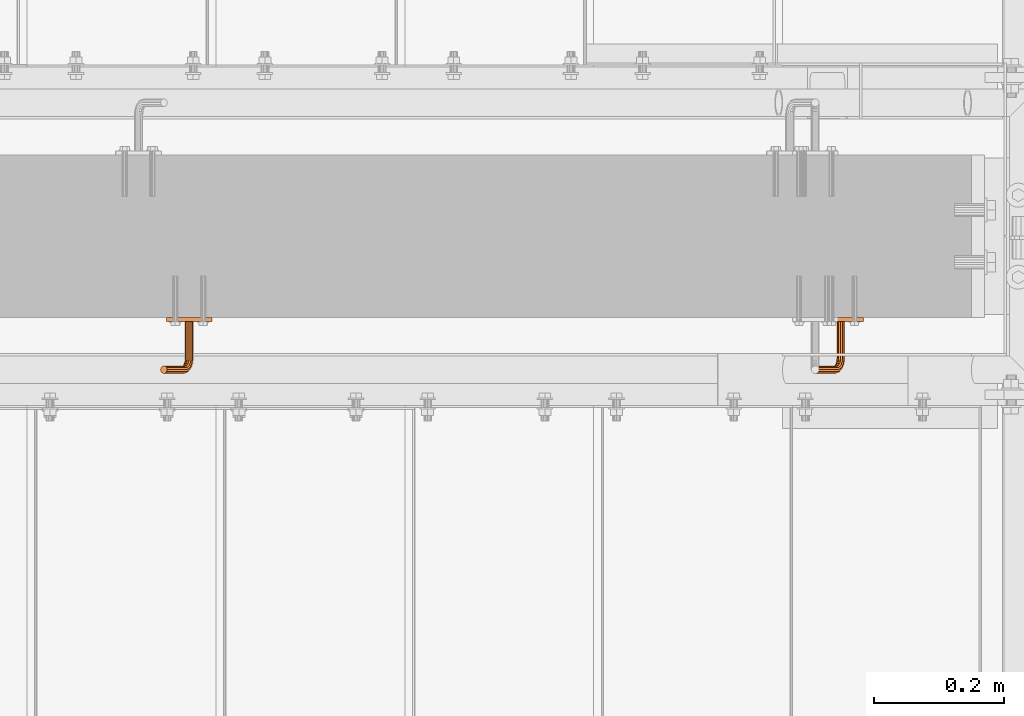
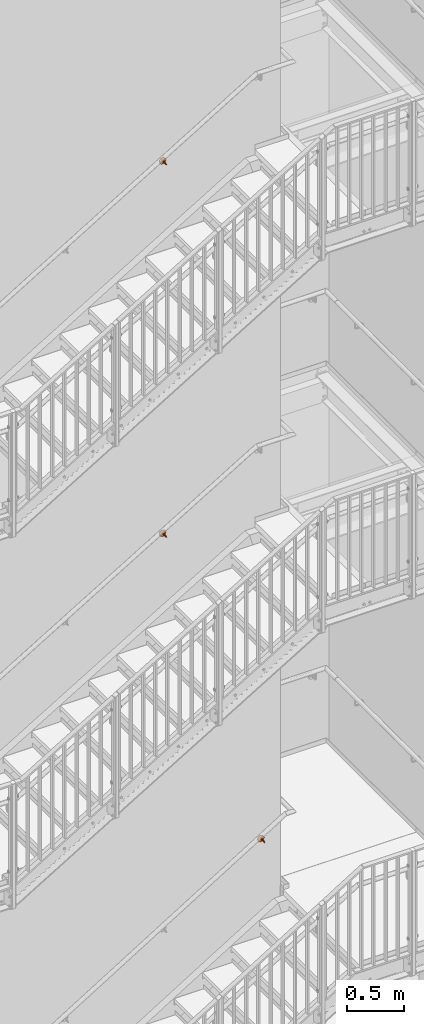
# One storey, part 384 of 410: 3 proxies.
"""IFC2X3 building model written with IfcOpenShell, lengths in millimetres."""

import ifcopenshell
import ifcopenshell.guid

model = None  # the IFC model being written
_history = None  # IfcOwnerHistory: only IFC2X3 demands one
_inside = {}  # id of a spatial element -> (the spatial element, [elements in it])
_under = {}  # id of a project, library or spatial element -> (it, [spatial elements below it])
_declared = {}  # id of a project -> (the project, [libraries it declares])
_typed = {}  # id of a type object -> (the type object, [elements of that type])
_made_of = {}  # id of a material, layer set ... -> (it, [elements and type objects made of it])


def new_model(schema):
    """Start an empty IFC model of exactly this schema.

    Asked for "IFC4X3", IfcOpenShell would pick the latest addendum, in which some entities
    have other attributes; the version numbers below select the first issue.
    IFC2X3 requires an IfcOwnerHistory on every rooted entity: one is made here for all.
    """
    global model, _history
    if schema == "IFC4X3":
        model = ifcopenshell.file(schema_version=(4, 3, 0, 0))
    else:
        model = ifcopenshell.file(schema=schema)
    _inside.clear()
    _under.clear()
    _declared.clear()
    _typed.clear()
    _made_of.clear()
    _history = None
    if model.schema == "IFC2X3":
        org = make("IfcOrganization", Name="unknown")
        user = make(
            "IfcPersonAndOrganization",
            ThePerson=make("IfcPerson", FamilyName="unknown"),
            TheOrganization=org,
        )
        app = make(
            "IfcApplication",
            ApplicationDeveloper=org,
            Version="unknown",
            ApplicationFullName="unknown",
            ApplicationIdentifier="unknown",
        )
        _history = make(
            "IfcOwnerHistory",
            OwningUser=user,
            OwningApplication=app,
            ChangeAction="ADDED",
            CreationDate=0,
        )
    return model


def make(cls, **values):
    """One entity of the class cls with the attributes given. An attribute that is None is left unset."""
    return model.create_entity(
        cls, **{name: value for name, value in values.items() if value is not None}
    )


def entity(cls, *values):
    """Any entity or typed value of the class cls, its attributes in the order of the schema. None: left unset."""
    e = model.create_entity(cls)
    for i, value in enumerate(values):
        if value is not None:
            e[i] = value
    return e


def rooted(cls, **values):
    """An entity with a GlobalId (a new one), such as an element, a storey or a relation."""
    return make(cls, GlobalId=ifcopenshell.guid.new(), OwnerHistory=_history, **values)


def si_unit(unit_type, name, prefix=None):
    """IfcSIUnit, for example si_unit("LENGTHUNIT", "METRE", prefix="MILLI")."""
    return make("IfcSIUnit", UnitType=unit_type, Prefix=prefix, Name=name)


def converted_unit(unit_type, name, factor, base, dimensions=None, offset=None):
    """IfcConversionBasedUnit, such as the inch: factor (a typed value) times the base unit."""
    return make(
        "IfcConversionBasedUnit"
        if offset is None
        else "IfcConversionBasedUnitWithOffset",
        ConversionOffset=offset,
        Dimensions=None
        if dimensions is None
        else entity("IfcDimensionalExponents", *dimensions),
        UnitType=unit_type,
        Name=name,
        ConversionFactor=make(
            "IfcMeasureWithUnit", ValueComponent=factor, UnitComponent=base
        ),
    )


def assignment(units):
    """IfcUnitAssignment: the units of a project."""
    return None if units is None else make("IfcUnitAssignment", Units=units)


def point(xyz):
    """IfcCartesianPoint."""
    return None if xyz is None else make("IfcCartesianPoint", Coordinates=xyz)


def direction(xyz):
    """IfcDirection."""
    return None if xyz is None else make("IfcDirection", DirectionRatios=xyz)


def frame(location, z_axis=None, x_axis=None):
    """IfcAxis2Placement3D, a coordinate frame: its origin and axes. An axis left out is left unset."""
    return make(
        "IfcAxis2Placement3D",
        Location=point(location),
        Axis=direction(z_axis),
        RefDirection=direction(x_axis),
    )


def origin_with_axes():
    """The frame at (0, 0, 0) with the z axis (0, 0, 1) and the x axis (1, 0, 0) written out."""
    return frame((0.0, 0.0, 0.0), z_axis=(0.0, 0.0, 1.0), x_axis=(1.0, 0.0, 0.0))


def place(relative_to, where):
    """IfcLocalPlacement: puts the frame where relative to a parent placement (None: the world)."""
    return make(
        "IfcLocalPlacement", PlacementRelTo=relative_to, RelativePlacement=where
    )


def context(
    kind, dimensions, precision=None, world=None, true_north=None, identifier=None
):
    """IfcGeometricRepresentationContext, for example the 3D "Model" context."""
    return make(
        "IfcGeometricRepresentationContext",
        ContextIdentifier=identifier,
        ContextType=kind,
        CoordinateSpaceDimension=dimensions,
        Precision=precision,
        WorldCoordinateSystem=world,
        TrueNorth=true_north,
    )


def project(units=None, contexts=None):
    """IfcProject with its units and contexts."""
    return rooted(
        "IfcProject",
        Name="project",
        RepresentationContexts=contexts,
        UnitsInContext=assignment(units),
    )


def spatial(cls, under=None, at=None, **own):
    """A site, building, storey or space (cls), placed at a placement, below another one or the project."""
    s = rooted(cls, ObjectPlacement=at, **own)
    if under is not None:
        _under.setdefault(under.id(), (under, []))[1].append(s)
    return s


def faces_of(points, faces, orient=None, outer=None):
    """IfcFace entities. A face is a list of loops; a loop is a list of indices into points, from 0.

    orient and outer hold one flag for each loop. By default every Orientation is true, the
    first loop of a face is its IfcFaceOuterBound and the others are IfcFaceBound.
    """
    made = []
    for i, loops in enumerate(faces):
        bounds = []
        for j, loop in enumerate(loops):
            is_outer = j == 0 if outer is None else outer[i][j]
            bounds.append(
                make(
                    "IfcFaceOuterBound" if is_outer else "IfcFaceBound",
                    Bound=make("IfcPolyLoop", Polygon=[points[k] for k in loop]),
                    Orientation=True if orient is None else orient[i][j],
                )
            )
        made.append(make("IfcFace", Bounds=bounds))
    return made


def faceted_brep(points, faces, orient=None, outer=None, voids=None):
    """IfcFacetedBrep: a solid bounded by flat faces; with voids (closed shells), ...WithVoids."""
    shared = [point(p) for p in points]
    hull = make("IfcClosedShell", CfsFaces=faces_of(shared, faces, orient, outer))
    if voids is None:
        return make("IfcFacetedBrep", Outer=hull)
    return make(
        "IfcFacetedBrepWithVoids",
        Outer=hull,
        Voids=[
            make(cls, CfsFaces=faces_of(shared, fs, o, b)) for cls, fs, o, b in voids
        ],
    )


def shape(context_of_items, identifier, shape_type, items):
    """IfcShapeRepresentation: the items that make up one representation, for example the "Body"."""
    return make(
        "IfcShapeRepresentation",
        ContextOfItems=context_of_items,
        RepresentationIdentifier=identifier,
        RepresentationType=shape_type,
        Items=items,
    )


def made_of(thing, what):
    """Note that an element or type object is made of a material, layer set ...; save() writes the relation."""
    if what is not None:
        _made_of.setdefault(what.id(), (what, []))[1].append(thing)
    return thing


def element(
    cls,
    number,
    at=None,
    inside=None,
    cuts=None,
    type_object=None,
    material=None,
    context=None,
    identifier="Body",
    shape_type=None,
    held_by="IfcProductDefinitionShape",
    body=None,
    shapes=None,
    **own,
):
    """One element of the class cls, such as IfcWall. Its Tag is "e" and its number.

    at: its placement. inside: the storey or other place that contains it. cuts: it is an
    opening in that element (IfcRelVoidsElement). A single representation is given by context,
    identifier, shape_type and body (its items); several are given by shapes. held_by: the class
    of the entity that holds the representations. save() writes the other relations.
    """
    e = rooted(cls, Tag="e%d" % number, ObjectPlacement=at, **own)
    if body is not None:
        shapes = [shape(context, identifier, shape_type, body)]
    if shapes is not None:
        e.Representation = make(held_by, Representations=shapes)
    if inside is not None:
        _inside.setdefault(inside.id(), (inside, []))[1].append(e)
    if cuts is not None:
        rooted(
            "IfcRelVoidsElement", RelatingBuildingElement=cuts, RelatedOpeningElement=e
        )
    if type_object is not None:
        _typed.setdefault(type_object.id(), (type_object, []))[1].append(e)
    return made_of(e, material)


def aggregate(whole, parts):
    """IfcRelAggregates: a whole, such as a stair, and the parts it consists of."""
    return rooted("IfcRelAggregates", RelatingObject=whole, RelatedObjects=parts)


def save(model, path):
    """Write the relations noted so far, then the file.

    IfcRelAggregates (storeys below a building ...), IfcRelContainedInSpatialStructure (elements
    in a storey), IfcRelDefinesByType, IfcRelAssociatesMaterial and IfcRelDeclares: one each for
    every whole, place, type object, material and project.
    """
    for whole, parts in _under.values():
        aggregate(whole, parts)
    for where, things in _inside.values():
        rooted(
            "IfcRelContainedInSpatialStructure",
            RelatedElements=things,
            RelatingStructure=where,
        )
    for kind, things in _typed.values():
        rooted("IfcRelDefinesByType", RelatedObjects=things, RelatingType=kind)
    for what, things in _made_of.values():
        rooted("IfcRelAssociatesMaterial", RelatedObjects=things, RelatingMaterial=what)
    for by, libraries in _declared.values():
        rooted("IfcRelDeclares", RelatingContext=by, RelatedDefinitions=libraries)
    model.write(path)


model = new_model("IFC2X3")

# Units and contexts
model_context = context("Model", 3, precision=1e-09, world=origin_with_axes())
ifc_project = project(units=[si_unit("LENGTHUNIT", "METRE", prefix="MILLI"), si_unit("AREAUNIT", "SQUARE_METRE"), si_unit("VOLUMEUNIT", "CUBIC_METRE"), converted_unit("PLANEANGLEUNIT", "DEGREE", entity("IfcPlaneAngleMeasure", 0.01745329), si_unit("PLANEANGLEUNIT", "RADIAN"), dimensions=[0, 0, 0, 0, 0, 0, 0])], contexts=[model_context])

# Site, building, storey
site_placement = place(None, origin_with_axes())
site = spatial("IfcSite", under=ifc_project, at=site_placement, Name="mKR Teilneubau & Sanierung BA1 - Ostfildern", CompositionType="ELEMENT")
building_placement = place(site_placement, origin_with_axes())
building = spatial("IfcBuilding", under=site, at=building_placement, Name="Struktur 1", CompositionType="ELEMENT")
storey_placement = place(building_placement, origin_with_axes())
storey = spatial("IfcBuildingStorey", under=building, at=storey_placement, Name="Default Storey", CompositionType="ELEMENT", Elevation=0.0)

# Proxies
proxy_1_placement = place(None, origin_with_axes())
element("IfcBuildingElementProxy", 1, at=proxy_1_placement, inside=storey, ObjectType="-", context=model_context, shape_type="Brep", body=[
    faceted_brep([(1548.832746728, 16855.0, -1570.467947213), (1548.832746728, 16849.0, -1570.467947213), (1549.463309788, 16849.0, -1572.575605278), (1549.463309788, 16855.0, -1572.575605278), (1575.278698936, 16849.0, -1522.23670842), (1563.868416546, 16849.0, -1523.834586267), (1553.595204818, 16849.0, -1529.050799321), (1545.572325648, 16849.0, -1537.320089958), (1540.669182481, 16849.0, -1547.746352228), (1539.41710696, 16849.0, -1559.199738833), (1541.951780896, 16849.0, -1570.439097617), (1547.998533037, 16849.0, -1580.246469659), (1556.902103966, 16849.0, -1587.559074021), (1567.697653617, 16849.0, -1591.584476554), (1579.215316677, 16849.0, -1591.886462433), (1590.206975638, 16849.0, -1588.432306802), (1599.481513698, 16849.0, -1581.596321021), (1606.033890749, 16849.0, -1572.119290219), (1609.154055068, 16849.0, -1561.028197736), (1608.503888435, 16849.0, -1549.524935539), (1604.153846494, 16849.0, -1538.856060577), (1596.575323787, 16849.0, -1530.177710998), (1586.589570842, 16849.0, -1524.430320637), (1549.340492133, 16849.0, -1568.327380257), (1550.850496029, 16849.0, -1566.727467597), (1552.958154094, 16849.0, -1566.096904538), (1555.09872105, 16849.0, -1566.604649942), (1556.69863371, 16849.0, -1568.114653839), (1557.329196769, 16849.0, -1570.222311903), (1556.821451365, 16849.0, -1572.362878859), (1555.311447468, 16849.0, -1573.962791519), (1553.203789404, 16849.0, -1574.593354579), (1551.063222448, 16849.0, -1574.085609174), (1591.393475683, 16849.0, -1544.227056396), (1591.901221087, 16849.0, -1542.08648944), (1593.411224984, 16849.0, -1540.48657678), (1595.518883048, 16849.0, -1539.856013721), (1597.659450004, 16849.0, -1540.363759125), (1599.259362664, 16849.0, -1541.873763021), (1599.889925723, 16849.0, -1543.981421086), (1599.382180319, 16849.0, -1546.121988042), (1597.872176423, 16849.0, -1547.721900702), (1595.764518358, 16849.0, -1548.352463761), (1593.623951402, 16849.0, -1547.844718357), (1592.024038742, 16849.0, -1546.33471446), (1549.340492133, 16855.0, -1568.327380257), (1606.033890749, 16855.0, -1572.119290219), (1599.481513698, 16855.0, -1581.596321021), (1590.206975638, 16855.0, -1588.432306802), (1579.215316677, 16855.0, -1591.886462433), (1567.697653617, 16855.0, -1591.584476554), (1556.902103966, 16855.0, -1587.559074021), (1547.998533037, 16855.0, -1580.246469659), (1541.951780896, 16855.0, -1570.439097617), (1539.41710696, 16855.0, -1559.199738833), (1540.669182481, 16855.0, -1547.746352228), (1545.572325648, 16855.0, -1537.320089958), (1553.595204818, 16855.0, -1529.050799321), (1563.868416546, 16855.0, -1523.834586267), (1575.278698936, 16855.0, -1522.23670842), (1586.589570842, 16855.0, -1524.430320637), (1596.575323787, 16855.0, -1530.177710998), (1604.153846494, 16855.0, -1538.856060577), (1608.503888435, 16855.0, -1549.524935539), (1609.154055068, 16855.0, -1561.028197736), (1593.623951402, 16855.0, -1547.844718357), (1595.764518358, 16855.0, -1548.352463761), (1597.872176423, 16855.0, -1547.721900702), (1599.382180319, 16855.0, -1546.121988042), (1599.889925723, 16855.0, -1543.981421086), (1599.259362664, 16855.0, -1541.873763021), (1597.659450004, 16855.0, -1540.363759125), (1595.518883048, 16855.0, -1539.856013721), (1593.411224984, 16855.0, -1540.48657678), (1591.901221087, 16855.0, -1542.08648944), (1591.393475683, 16855.0, -1544.227056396), (1592.024038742, 16855.0, -1546.33471446), (1551.063222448, 16855.0, -1574.085609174), (1553.203789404, 16855.0, -1574.593354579), (1555.311447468, 16855.0, -1573.962791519), (1556.821451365, 16855.0, -1572.362878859), (1557.329196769, 16855.0, -1570.222311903), (1556.69863371, 16855.0, -1568.114653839), (1555.09872105, 16855.0, -1566.604649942), (1552.958154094, 16855.0, -1566.096904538), (1550.850496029, 16855.0, -1566.727467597)], [[[0, 1, 2, 3]], [[4, 5, 6, 7, 8, 9, 10, 11, 12, 13, 14, 15, 16, 17, 18, 19, 20, 21, 22], [2, 1, 23, 24, 25, 26, 27, 28, 29, 30, 31, 32], [33, 34, 35, 36, 37, 38, 39, 40, 41, 42, 43, 44]], [[1, 0, 45, 23]], [[46, 47, 48, 49, 50, 51, 52, 53, 54, 55, 56, 57, 58, 59, 60, 61, 62, 63, 64], [65, 66, 67, 68, 69, 70, 71, 72, 73, 74, 75, 76], [0, 3, 77, 78, 79, 80, 81, 82, 83, 84, 85, 45]], [[3, 2, 32, 77]], [[10, 53, 52, 11]], [[77, 32, 31, 78]], [[23, 45, 85, 24]], [[53, 10, 9, 54]], [[78, 31, 30, 79]], [[11, 52, 51, 12]], [[24, 85, 84, 25]], [[8, 55, 54, 9]], [[79, 30, 29, 80]], [[55, 8, 7, 56]], [[50, 13, 12, 51]], [[25, 84, 83, 26]], [[13, 50, 49, 14]], [[80, 29, 28, 81]], [[26, 83, 82, 27]], [[56, 7, 6, 57]], [[81, 28, 27, 82]], [[14, 49, 48, 15]], [[57, 6, 5, 58]], [[44, 76, 75, 33]], [[15, 48, 47, 16]], [[76, 44, 43, 65]], [[33, 75, 74, 34]], [[58, 5, 4, 59]], [[16, 47, 46, 17]], [[65, 43, 42, 66]], [[34, 74, 73, 35]], [[59, 4, 22, 60]], [[17, 46, 64, 18]], [[66, 42, 41, 67]], [[35, 73, 72, 36]], [[60, 22, 21, 61]], [[18, 64, 63, 19]], [[67, 41, 40, 68]], [[20, 62, 61, 21]], [[36, 72, 71, 37]], [[62, 20, 19, 63]], [[68, 40, 39, 69]], [[37, 71, 70, 38]], [[69, 39, 38, 70]]]),
    faceted_brep([(1579.4686237, 16793.0, -1554.075777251), (1579.4686237, 16849.0, -1554.075777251), (1577.209923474, 16849.0, -1551.944007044), (1577.209923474, 16793.0, -1551.944007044), (1569.337656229, 16772.0, -1539.175788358), (1539.423040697, 16772.0, -1490.65655735), (1537.553643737, 16769.803847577, -1491.809137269), (1567.468259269, 16769.803847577, -1540.328368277), (1570.021903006, 16775.0, -1538.753914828), (1540.107287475, 16775.0, -1490.23468382), (1572.126953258, 16771.569549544, -1547.884415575), (1573.555276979, 16773.598529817, -1546.016448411), (1574.534725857, 16849.0, -1563.222178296), (1571.512748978, 16849.0, -1562.505361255), (1569.254048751, 16849.0, -1560.373591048), (1568.36384208, 16849.0, -1557.39807378), (1569.080659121, 16849.0, -1554.376096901), (1571.212429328, 16849.0, -1552.117396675), (1574.187946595, 16849.0, -1551.227190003), (1580.358830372, 16849.0, -1557.051294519), (1579.642013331, 16849.0, -1560.073271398), (1577.510243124, 16849.0, -1562.331971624), (1580.358830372, 16793.0, -1557.051294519), (1576.610682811, 16787.259748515, -1550.972084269), (1578.749534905, 16786.111698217, -1552.909469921), (1532.446356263, 16780.196152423, -1494.958044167), (1530.576959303, 16778.0, -1496.110624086), (1529.892712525, 16775.0, -1496.532497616), (1530.576959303, 16772.0, -1496.110624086), (1532.446356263, 16769.803847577, -1494.958044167), (1535.0, 16769.0, -1493.383590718), (1539.423040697, 16778.0, -1490.65655735), (1537.553643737, 16780.196152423, -1491.809137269), (1535.0, 16781.0, -1493.383590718), (1573.637006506, 16776.370168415, -1544.61733773), (1577.130803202, 16778.150757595, -1551.815679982), (1576.701743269, 16780.272077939, -1549.588107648), (1574.187946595, 16793.0, -1551.227190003), (1579.519893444, 16784.96364792, -1555.690602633), (1564.914615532, 16769.0, -1541.902821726), (1569.337656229, 16778.0, -1539.175788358), (1569.734753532, 16770.82689122, -1549.720718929), (1576.076403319, 16776.597843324, -1554.290123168), (1574.904189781, 16782.393398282, -1548.204282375), (1573.676440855, 16788.100179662, -1550.397566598), (1579.642013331, 16793.0, -1560.073271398), (1572.350242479, 16779.141807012, -1544.06197411), (1571.212429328, 16793.0, -1552.117396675), (1578.715341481, 16784.123216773, -1558.570280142), (1562.360971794, 16769.803847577, -1543.477275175), (1567.468259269, 16780.196152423, -1540.328368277), (1567.019665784, 16771.569549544, -1551.033322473), (1573.821069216, 16776.029437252, -1556.348412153), (1572.219795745, 16783.946312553, -1548.034999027), (1570.733036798, 16788.407798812, -1551.339858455), (1577.510243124, 16793.0, -1562.331971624), (1570.039772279, 16781.170787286, -1544.499166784), (1560.491574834, 16772.0, -1544.629855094), (1569.080659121, 16793.0, -1554.376096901), (1576.551458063, 16783.815597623, -1560.776895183), (1564.914615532, 16781.0, -1541.902821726), (1564.709195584, 16773.598529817, -1551.470515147), (1570.969115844, 16776.597843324, -1557.439030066), (1569.367842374, 16784.514718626, -1549.125616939), (1568.56915338, 16788.100179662, -1553.546473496), (1574.534725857, 16793.0, -1563.222178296), (1567.324684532, 16781.91344561, -1545.811770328), (1559.807328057, 16775.0, -1545.051728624), (1568.36384208, 16793.0, -1557.39807378), (1573.608054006, 16784.123216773, -1561.71918704), (1562.360971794, 16780.196152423, -1543.477275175), (1560.491574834, 16778.0, -1544.629855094), (1563.422431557, 16776.370168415, -1550.915151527), (1568.284721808, 16778.150757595, -1557.269746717), (1567.11250827, 16783.946312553, -1551.183905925), (1567.764601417, 16787.259748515, -1556.426151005), (1569.254048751, 16793.0, -1560.373591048), (1571.512748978, 16793.0, -1562.505361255), (1564.932484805, 16781.170787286, -1547.648073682), (1570.67381205, 16784.96364792, -1561.144669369), (1563.504161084, 16779.141807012, -1549.516040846), (1566.48716832, 16780.272077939, -1555.885921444), (1568.534959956, 16786.111698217, -1559.207283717), (1566.058108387, 16782.393398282, -1553.658349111)], [[[0, 1, 2, 3]], [[4, 5, 6, 7]], [[5, 4, 8, 9]], [[4, 7, 10, 11]], [[12, 13, 14, 15, 16, 17, 18, 2, 1, 19, 20, 21]], [[1, 0, 22, 19]], [[0, 3, 23, 24]], [[25, 26, 27, 28, 29, 30, 6, 5, 9, 31, 32, 33]], [[11, 34, 8, 4]], [[35, 36, 34, 11]], [[3, 2, 18, 37]], [[24, 38, 22, 0]], [[36, 35, 38, 24]], [[7, 6, 30, 39]], [[9, 8, 40, 31]], [[7, 39, 41, 10]], [[11, 10, 42, 35]], [[24, 23, 43, 36]], [[3, 37, 44, 23]], [[19, 22, 45, 20]], [[36, 43, 46, 34]], [[34, 46, 40, 8]], [[37, 18, 17, 47]], [[38, 48, 45, 22]], [[35, 42, 48, 38]], [[39, 30, 29, 49]], [[31, 40, 50, 32]], [[39, 49, 51, 41]], [[10, 41, 52, 42]], [[23, 44, 53, 43]], [[37, 47, 54, 44]], [[20, 45, 55, 21]], [[43, 53, 56, 46]], [[46, 56, 50, 40]], [[49, 29, 28, 57]], [[47, 17, 16, 58]], [[48, 59, 55, 45]], [[42, 52, 59, 48]], [[32, 50, 60, 33]], [[49, 57, 61, 51]], [[41, 51, 62, 52]], [[44, 54, 63, 53]], [[47, 58, 64, 54]], [[21, 55, 65, 12]], [[56, 66, 60, 50]], [[53, 63, 66, 56]], [[57, 28, 27, 67]], [[58, 16, 15, 68]], [[59, 69, 65, 55]], [[52, 62, 69, 59]], [[33, 60, 70, 25]], [[26, 71, 67, 27]], [[25, 70, 71, 26]], [[57, 67, 72, 61]], [[51, 61, 73, 62]], [[54, 64, 74, 63]], [[58, 68, 75, 64]], [[14, 76, 68, 15]], [[13, 77, 76, 14]], [[12, 65, 77, 13]], [[66, 78, 70, 60]], [[63, 74, 78, 66]], [[69, 79, 77, 65]], [[62, 73, 79, 69]], [[67, 71, 80, 72]], [[71, 70, 78, 80]], [[61, 72, 81, 73]], [[68, 76, 82, 75]], [[64, 75, 83, 74]], [[76, 77, 79, 82]], [[74, 83, 80, 78]], [[73, 81, 82, 79]], [[72, 80, 83, 81]], [[75, 82, 81, 83]]]),
])
proxy_2_placement = place(None, origin_with_axes())
element("IfcBuildingElementProxy", 2, at=proxy_2_placement, inside=storey, ObjectType="-", context=model_context, shape_type="Brep", body=[
    faceted_brep([(547.883426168, 16855.0, 2066.639713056), (547.883426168, 16849.0, 2066.639713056), (548.488013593, 16849.0, 2064.524457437), (548.488013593, 16855.0, 2064.524457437), (574.920706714, 16849.0, 2114.541970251), (563.491631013, 16849.0, 2113.084579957), (553.155028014, 16849.0, 2107.995140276), (545.03102904, 16849.0, 2099.825170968), (539.999995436, 16849.0, 2089.460014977), (538.607117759, 16849.0, 2078.022897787), (541.003335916, 16849.0, 2066.753208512), (546.928982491, 16849.0, 2056.87219285), (555.74192173, 16849.0, 2049.450612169), (566.48713492, 16849.0, 2045.292709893), (578.000211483, 16849.0, 2044.849059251), (589.033530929, 16849.0, 2048.167736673), (598.391461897, 16849.0, 2054.889111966), (605.059927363, 16849.0, 2064.284819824), (608.316295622, 16849.0, 2075.336689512), (607.807688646, 16849.0, 2086.847079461), (603.589221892, 16849.0, 2097.568660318), (596.118031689, 16849.0, 2106.339582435), (586.203737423, 16849.0, 2112.209380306), (590.76374391, 16849.0, 2092.355046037), (591.297783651, 16849.0, 2094.489204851), (592.82735504, 16849.0, 2096.07042073), (594.942610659, 16849.0, 2096.675008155), (597.076769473, 16849.0, 2096.140968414), (598.657985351, 16849.0, 2094.611397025), (599.262572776, 16849.0, 2092.496141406), (598.728533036, 16849.0, 2090.361982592), (597.198961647, 16849.0, 2088.780766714), (595.083706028, 16849.0, 2088.176179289), (592.949547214, 16849.0, 2088.710219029), (591.368331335, 16849.0, 2090.239790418), (548.417465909, 16849.0, 2068.77387187), (549.947037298, 16849.0, 2070.355087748), (552.062292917, 16849.0, 2070.959675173), (554.196451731, 16849.0, 2070.425635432), (555.77766761, 16849.0, 2068.896064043), (556.382255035, 16849.0, 2066.780808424), (555.848215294, 16849.0, 2064.64664961), (554.318643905, 16849.0, 2063.065433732), (552.203388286, 16849.0, 2062.460846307), (550.069229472, 16849.0, 2062.994886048), (548.417465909, 16855.0, 2068.77387187), (605.059927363, 16855.0, 2064.284819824), (598.391461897, 16855.0, 2054.889111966), (589.033530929, 16855.0, 2048.167736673), (578.000211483, 16855.0, 2044.849059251), (566.48713492, 16855.0, 2045.292709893), (555.74192173, 16855.0, 2049.450612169), (546.928982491, 16855.0, 2056.87219285), (541.003335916, 16855.0, 2066.753208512), (538.607117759, 16855.0, 2078.022897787), (539.999995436, 16855.0, 2089.460014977), (545.03102904, 16855.0, 2099.825170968), (553.155028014, 16855.0, 2107.995140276), (563.491631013, 16855.0, 2113.084579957), (574.920706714, 16855.0, 2114.541970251), (586.203737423, 16855.0, 2112.209380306), (596.118031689, 16855.0, 2106.339582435), (603.589221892, 16855.0, 2097.568660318), (607.807688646, 16855.0, 2086.847079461), (608.316295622, 16855.0, 2075.336689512), (592.949547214, 16855.0, 2088.710219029), (595.083706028, 16855.0, 2088.176179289), (597.198961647, 16855.0, 2088.780766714), (598.728533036, 16855.0, 2090.361982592), (599.262572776, 16855.0, 2092.496141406), (598.657985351, 16855.0, 2094.611397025), (597.076769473, 16855.0, 2096.140968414), (594.942610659, 16855.0, 2096.675008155), (592.82735504, 16855.0, 2096.07042073), (591.297783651, 16855.0, 2094.489204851), (590.76374391, 16855.0, 2092.355046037), (591.368331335, 16855.0, 2090.239790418), (550.069229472, 16855.0, 2062.994886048), (552.203388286, 16855.0, 2062.460846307), (554.318643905, 16855.0, 2063.065433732), (555.848215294, 16855.0, 2064.64664961), (556.382255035, 16855.0, 2066.780808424), (555.77766761, 16855.0, 2068.896064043), (554.196451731, 16855.0, 2070.425635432), (552.062292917, 16855.0, 2070.959675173), (549.947037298, 16855.0, 2070.355087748)], [[[0, 1, 2, 3]], [[4, 5, 6, 7, 8, 9, 10, 11, 12, 13, 14, 15, 16, 17, 18, 19, 20, 21, 22], [23, 24, 25, 26, 27, 28, 29, 30, 31, 32, 33, 34], [2, 1, 35, 36, 37, 38, 39, 40, 41, 42, 43, 44]], [[1, 0, 45, 35]], [[46, 47, 48, 49, 50, 51, 52, 53, 54, 55, 56, 57, 58, 59, 60, 61, 62, 63, 64], [65, 66, 67, 68, 69, 70, 71, 72, 73, 74, 75, 76], [0, 3, 77, 78, 79, 80, 81, 82, 83, 84, 85, 45]], [[3, 2, 44, 77]], [[10, 53, 52, 11]], [[77, 44, 43, 78]], [[35, 45, 85, 36]], [[53, 10, 9, 54]], [[78, 43, 42, 79]], [[11, 52, 51, 12]], [[36, 85, 84, 37]], [[8, 55, 54, 9]], [[79, 42, 41, 80]], [[55, 8, 7, 56]], [[50, 13, 12, 51]], [[37, 84, 83, 38]], [[13, 50, 49, 14]], [[80, 41, 40, 81]], [[38, 83, 82, 39]], [[56, 7, 6, 57]], [[81, 40, 39, 82]], [[14, 49, 48, 15]], [[57, 6, 5, 58]], [[34, 76, 75, 23]], [[15, 48, 47, 16]], [[76, 34, 33, 65]], [[23, 75, 74, 24]], [[58, 5, 4, 59]], [[16, 47, 46, 17]], [[65, 33, 32, 66]], [[24, 74, 73, 25]], [[59, 4, 22, 60]], [[17, 46, 64, 18]], [[66, 32, 31, 67]], [[25, 73, 72, 26]], [[60, 22, 21, 61]], [[18, 64, 63, 19]], [[67, 31, 30, 68]], [[20, 62, 61, 21]], [[26, 72, 71, 27]], [[62, 20, 19, 63]], [[68, 30, 29, 69]], [[27, 71, 70, 28]], [[69, 29, 28, 70]]]),
    faceted_brep([(578.718637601, 16793.0, 2082.653767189), (578.718637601, 16849.0, 2082.653767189), (576.486332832, 16849.0, 2084.813162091), (576.486332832, 16793.0, 2084.813162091), (568.771732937, 16772.0, 2097.677257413), (539.456253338, 16772.0, 2146.560819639), (537.572819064, 16769.803847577, 2145.431323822), (566.888298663, 16769.803847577, 2096.547761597), (569.461117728, 16775.0, 2098.090681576), (540.145638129, 16775.0, 2146.974243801), (571.453687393, 16771.569549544, 2088.934975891), (572.904882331, 16773.598529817, 2090.7852308), (573.672596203, 16849.0, 2073.568753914), (570.659666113, 16849.0, 2074.322692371), (568.427361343, 16849.0, 2076.482087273), (567.573826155, 16849.0, 2079.4683305), (568.327764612, 16849.0, 2082.48126059), (570.487159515, 16849.0, 2084.71356536), (573.473402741, 16849.0, 2085.567100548), (579.57217279, 16849.0, 2079.667523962), (578.818234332, 16849.0, 2076.654593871), (576.65883943, 16849.0, 2074.422289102), (579.57217279, 16793.0, 2079.667523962), (575.899093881, 16787.259748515, 2085.792383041), (578.013950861, 16786.111698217, 2083.828832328), (532.427180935, 16780.196152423, 2142.345483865), (530.543746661, 16778.0, 2141.215988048), (529.854361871, 16775.0, 2140.802563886), (530.543746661, 16772.0, 2141.215988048), (532.427180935, 16769.803847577, 2142.345483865), (535.0, 16769.0, 2143.888403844), (539.456253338, 16778.0, 2146.560819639), (537.572819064, 16780.196152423, 2145.431323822), (535.0, 16781.0, 2143.888403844), (573.003817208, 16776.370168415, 2092.183230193), (576.408797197, 16778.150757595, 2084.942452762), (576.007172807, 16780.272077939, 2087.175134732), (573.473402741, 16793.0, 2085.567100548), (578.750038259, 16784.96364792, 2081.038433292), (564.315479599, 16769.0, 2095.004841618), (568.771732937, 16778.0, 2097.677257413), (569.039078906, 16770.82689122, 2087.128239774), (575.324037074, 16776.597843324, 2082.481167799), (574.226778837, 16782.393398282, 2088.580968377), (572.972141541, 16788.100179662, 2086.402953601), (578.818234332, 16793.0, 2076.654593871), (571.723982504, 16779.141807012, 2092.754381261), (570.487159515, 16793.0, 2084.71356536), (577.910122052, 16784.123216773, 2078.168871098), (561.742660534, 16769.803847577, 2093.461921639), (566.888298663, 16780.196152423, 2096.547761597), (566.308049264, 16771.569549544, 2085.849135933), (573.043553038, 16776.029437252, 2080.45077916), (571.544670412, 16783.946312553, 2088.783261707), (570.017368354, 16788.407798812, 2085.49694212), (576.65883943, 16793.0, 2074.422289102), (569.408308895, 16781.170787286, 2092.345644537), (559.859226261, 16772.0, 2092.332425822), (568.327764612, 16793.0, 2082.48126059), (575.719257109, 16783.815597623, 2075.989042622), (564.315479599, 16781.0, 2095.004841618), (563.992375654, 16773.598529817, 2085.440399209), (570.178398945, 16776.597843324, 2079.395327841), (568.679516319, 16784.514718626, 2087.727810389), (567.826503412, 16788.100179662, 2083.317113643), (573.672596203, 16793.0, 2073.568753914), (566.677279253, 16781.91344561, 2091.066540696), (559.16984147, 16775.0, 2091.91900166), (567.573826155, 16793.0, 2079.4683305), (572.764483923, 16784.123216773, 2075.083031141), (561.742660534, 16780.196152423, 2093.461921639), (559.859226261, 16778.0, 2092.332425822), (562.71254095, 16776.370168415, 2086.011550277), (567.49629052, 16778.150757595, 2079.597621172), (566.399032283, 16783.946312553, 2085.69742175), (566.986587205, 16787.259748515, 2080.44755145), (568.427361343, 16793.0, 2076.482087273), (570.659666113, 16793.0, 2074.322692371), (564.262670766, 16781.170787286, 2089.259804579), (569.837531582, 16784.96364792, 2075.693601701), (562.811475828, 16779.141807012, 2087.40954967), (565.715896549, 16780.272077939, 2081.003454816), (567.722674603, 16786.111698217, 2077.657152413), (565.31427216, 16782.393398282, 2083.236136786)], [[[0, 1, 2, 3]], [[4, 5, 6, 7]], [[5, 4, 8, 9]], [[4, 7, 10, 11]], [[12, 13, 14, 15, 16, 17, 18, 2, 1, 19, 20, 21]], [[1, 0, 22, 19]], [[0, 3, 23, 24]], [[25, 26, 27, 28, 29, 30, 6, 5, 9, 31, 32, 33]], [[11, 34, 8, 4]], [[35, 36, 34, 11]], [[3, 2, 18, 37]], [[24, 38, 22, 0]], [[36, 35, 38, 24]], [[7, 6, 30, 39]], [[9, 8, 40, 31]], [[7, 39, 41, 10]], [[11, 10, 42, 35]], [[24, 23, 43, 36]], [[3, 37, 44, 23]], [[19, 22, 45, 20]], [[36, 43, 46, 34]], [[34, 46, 40, 8]], [[37, 18, 17, 47]], [[38, 48, 45, 22]], [[35, 42, 48, 38]], [[39, 30, 29, 49]], [[31, 40, 50, 32]], [[39, 49, 51, 41]], [[10, 41, 52, 42]], [[23, 44, 53, 43]], [[37, 47, 54, 44]], [[20, 45, 55, 21]], [[43, 53, 56, 46]], [[46, 56, 50, 40]], [[49, 29, 28, 57]], [[47, 17, 16, 58]], [[48, 59, 55, 45]], [[42, 52, 59, 48]], [[32, 50, 60, 33]], [[49, 57, 61, 51]], [[41, 51, 62, 52]], [[44, 54, 63, 53]], [[47, 58, 64, 54]], [[21, 55, 65, 12]], [[56, 66, 60, 50]], [[53, 63, 66, 56]], [[57, 28, 27, 67]], [[58, 16, 15, 68]], [[59, 69, 65, 55]], [[52, 62, 69, 59]], [[33, 60, 70, 25]], [[26, 71, 67, 27]], [[25, 70, 71, 26]], [[57, 67, 72, 61]], [[51, 61, 73, 62]], [[54, 64, 74, 63]], [[58, 68, 75, 64]], [[14, 76, 68, 15]], [[13, 77, 76, 14]], [[12, 65, 77, 13]], [[66, 78, 70, 60]], [[63, 74, 78, 66]], [[69, 79, 77, 65]], [[62, 73, 79, 69]], [[67, 71, 80, 72]], [[71, 70, 78, 80]], [[61, 72, 81, 73]], [[68, 76, 82, 75]], [[64, 75, 83, 74]], [[76, 77, 79, 82]], [[74, 83, 80, 78]], [[73, 81, 82, 79]], [[72, 80, 83, 81]], [[75, 82, 81, 83]]]),
])
proxy_3_placement = place(None, origin_with_axes())
element("IfcBuildingElementProxy", 3, at=proxy_3_placement, inside=storey, ObjectType="-", context=model_context, shape_type="Brep", body=[
    faceted_brep([(548.095976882, 16855.0, 6074.989343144), (548.095976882, 16849.0, 6074.989343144), (548.706383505, 16849.0, 6072.875759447), (548.706383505, 16855.0, 6072.875759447), (575.001321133, 16849.0, 6122.96582941), (563.576299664, 16849.0, 6121.476990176), (553.253742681, 16849.0, 6116.359121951), (545.152259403, 16849.0, 6108.16682517), (540.149771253, 16849.0, 6097.787862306), (538.788375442, 16849.0, 6086.346955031), (541.21560033, 16849.0, 6075.083903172), (547.168418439, 16849.0, 6065.219233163), (556.001749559, 16849.0, 6057.821935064), (566.7583652, 16849.0, 6053.693620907), (578.272619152, 16849.0, 6053.281657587), (589.296763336, 16849.0, 6056.630687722), (598.636160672, 16849.0, 6063.377791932), (605.278742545, 16849.0, 6072.791816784), (608.504682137, 16849.0, 6083.85260661), (607.964398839, 16849.0, 6095.361553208), (603.716440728, 16849.0, 6106.071483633), (596.221139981, 16849.0, 6114.821810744), (586.290728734, 16849.0, 6120.664300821), (590.905359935, 16849.0, 6100.822591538), (591.433524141, 16849.0, 6102.958212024), (592.958738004, 16849.0, 6104.543631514), (595.072321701, 16849.0, 6105.154038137), (597.207942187, 16849.0, 6104.625873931), (598.793361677, 16849.0, 6103.100660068), (599.4037683, 16849.0, 6100.987076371), (598.875604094, 16849.0, 6098.851455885), (597.350390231, 16849.0, 6097.266036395), (595.236806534, 16849.0, 6096.655629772), (593.101186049, 16849.0, 6097.183793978), (591.515766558, 16849.0, 6098.709007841), (548.624141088, 16849.0, 6077.124963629), (550.149354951, 16849.0, 6078.71038312), (552.262938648, 16849.0, 6079.320789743), (554.398559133, 16849.0, 6078.792625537), (555.983978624, 16849.0, 6077.267411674), (556.594385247, 16849.0, 6075.153827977), (556.066221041, 16849.0, 6073.018207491), (554.541007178, 16849.0, 6071.432788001), (552.427423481, 16849.0, 6070.822381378), (550.291802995, 16849.0, 6071.350545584), (548.624141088, 16855.0, 6077.124963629), (605.278742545, 16855.0, 6072.791816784), (598.636160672, 16855.0, 6063.377791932), (589.296763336, 16855.0, 6056.630687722), (578.272619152, 16855.0, 6053.281657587), (566.7583652, 16855.0, 6053.693620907), (556.001749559, 16855.0, 6057.821935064), (547.168418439, 16855.0, 6065.219233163), (541.21560033, 16855.0, 6075.083903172), (538.788375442, 16855.0, 6086.346955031), (540.149771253, 16855.0, 6097.787862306), (545.152259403, 16855.0, 6108.16682517), (553.253742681, 16855.0, 6116.359121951), (563.576299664, 16855.0, 6121.476990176), (575.001321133, 16855.0, 6122.96582941), (586.290728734, 16855.0, 6120.664300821), (596.221139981, 16855.0, 6114.821810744), (603.716440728, 16855.0, 6106.071483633), (607.964398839, 16855.0, 6095.361553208), (608.504682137, 16855.0, 6083.85260661), (550.291802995, 16855.0, 6071.350545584), (552.427423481, 16855.0, 6070.822381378), (554.541007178, 16855.0, 6071.432788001), (556.066221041, 16855.0, 6073.018207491), (556.594385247, 16855.0, 6075.153827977), (555.983978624, 16855.0, 6077.267411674), (554.398559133, 16855.0, 6078.792625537), (552.262938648, 16855.0, 6079.320789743), (550.149354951, 16855.0, 6078.71038312), (593.101186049, 16855.0, 6097.183793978), (595.236806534, 16855.0, 6096.655629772), (597.350390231, 16855.0, 6097.266036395), (598.875604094, 16855.0, 6098.851455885), (599.4037683, 16855.0, 6100.987076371), (598.793361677, 16855.0, 6103.100660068), (597.207942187, 16855.0, 6104.625873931), (595.072321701, 16855.0, 6105.154038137), (592.958738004, 16855.0, 6104.543631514), (591.433524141, 16855.0, 6102.958212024), (590.905359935, 16855.0, 6100.822591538), (591.515766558, 16855.0, 6098.709007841)], [[[0, 1, 2, 3]], [[4, 5, 6, 7, 8, 9, 10, 11, 12, 13, 14, 15, 16, 17, 18, 19, 20, 21, 22], [23, 24, 25, 26, 27, 28, 29, 30, 31, 32, 33, 34], [2, 1, 35, 36, 37, 38, 39, 40, 41, 42, 43, 44]], [[1, 0, 45, 35]], [[46, 47, 48, 49, 50, 51, 52, 53, 54, 55, 56, 57, 58, 59, 60, 61, 62, 63, 64], [0, 3, 65, 66, 67, 68, 69, 70, 71, 72, 73, 45], [74, 75, 76, 77, 78, 79, 80, 81, 82, 83, 84, 85]], [[3, 2, 44, 65]], [[10, 53, 52, 11]], [[65, 44, 43, 66]], [[35, 45, 73, 36]], [[53, 10, 9, 54]], [[66, 43, 42, 67]], [[11, 52, 51, 12]], [[36, 73, 72, 37]], [[8, 55, 54, 9]], [[67, 42, 41, 68]], [[55, 8, 7, 56]], [[50, 13, 12, 51]], [[37, 72, 71, 38]], [[13, 50, 49, 14]], [[68, 41, 40, 69]], [[38, 71, 70, 39]], [[56, 7, 6, 57]], [[69, 40, 39, 70]], [[14, 49, 48, 15]], [[57, 6, 5, 58]], [[34, 85, 84, 23]], [[15, 48, 47, 16]], [[85, 34, 33, 74]], [[23, 84, 83, 24]], [[58, 5, 4, 59]], [[16, 47, 46, 17]], [[74, 33, 32, 75]], [[24, 83, 82, 25]], [[59, 4, 22, 60]], [[17, 46, 64, 18]], [[75, 32, 31, 76]], [[25, 82, 81, 26]], [[60, 22, 21, 61]], [[18, 64, 63, 19]], [[76, 31, 30, 77]], [[20, 62, 61, 21]], [[26, 81, 80, 27]], [[62, 20, 19, 63]], [[77, 30, 29, 78]], [[27, 80, 79, 28]], [[78, 29, 28, 79]]]),
    faceted_brep([(578.886998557, 16793.0, 6091.088199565), (578.886998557, 16849.0, 6091.088199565), (576.648759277, 16849.0, 6093.241442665), (576.648759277, 16793.0, 6093.241442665), (568.898784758, 16772.0, 6106.084257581), (539.448881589, 16772.0, 6154.886954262), (537.568562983, 16769.803847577, 6153.752279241), (567.018466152, 16769.803847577, 6104.94958256), (569.587029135, 16775.0, 6106.499577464), (540.137125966, 16775.0, 6155.302274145), (571.604789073, 16771.569549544, 6097.349390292), (573.050886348, 16773.598529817, 6099.203632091), (573.865979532, 16849.0, 6081.989333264), (570.850985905, 16849.0, 6082.73497685), (568.612746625, 16849.0, 6084.88821995), (567.750996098, 16849.0, 6087.872102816), (568.496639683, 16849.0, 6090.887096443), (570.649882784, 16849.0, 6093.125335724), (573.63376565, 16849.0, 6093.98708625), (579.748749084, 16849.0, 6088.104316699), (579.003105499, 16849.0, 6085.089323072), (576.849862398, 16849.0, 6082.851083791), (579.748749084, 16793.0, 6088.104316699), (576.058827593, 16787.259748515, 6094.21904374), (578.179080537, 16786.111698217, 6092.261320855), (532.431437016, 16780.196152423, 6150.652289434), (530.55111841, 16778.0, 6149.517614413), (529.862874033, 16775.0, 6149.10229453), (530.55111841, 16772.0, 6149.517614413), (532.431437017, 16769.803847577, 6150.652289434), (535.0, 16769.0, 6152.202284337), (539.448881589, 16778.0, 6154.886954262), (537.568562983, 16780.196152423, 6153.752279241), (535.0, 16781.0, 6152.202284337), (573.145973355, 16776.370168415, 6100.601898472), (576.570868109, 16778.150757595, 6093.370519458), (576.163100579, 16780.272077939, 6095.602087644), (573.63376565, 16793.0, 6093.98708625), (578.922844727, 16784.96364792, 6089.472958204), (564.449903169, 16769.0, 6103.399587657), (568.898784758, 16778.0, 6106.084257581), (569.195162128, 16770.82689122, 6095.536015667), (575.492885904, 16776.597843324, 6090.9062584), (574.378844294, 16782.393398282, 6097.003016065), (573.130205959, 16788.100179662, 6094.821556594), (579.003105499, 16793.0, 6085.089323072), (571.864571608, 16779.141807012, 6101.169525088), (570.649882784, 16793.0, 6093.125335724), (578.090829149, 16784.123216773, 6086.601095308), (561.881340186, 16769.803847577, 6101.849592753), (567.018466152, 16780.196152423, 6104.94958256), (566.467663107, 16771.569549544, 6094.249400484), (573.217998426, 16776.029437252, 6088.86960123), (571.696189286, 16783.946312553, 6097.197927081), (570.177937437, 16788.407798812, 6093.907416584), (576.849862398, 16793.0, 6082.851083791), (569.55003167, 16781.170787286, 6100.754416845), (560.00102158, 16772.0, 6100.714917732), (568.496639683, 16793.0, 6090.887096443), (575.905971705, 16783.815597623, 6084.415245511), (564.449903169, 16781.0, 6103.399587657), (564.153123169, 16773.598529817, 6093.834292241), (570.355759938, 16776.597843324, 6087.806268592), (568.833950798, 16784.514718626, 6096.134594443), (567.993079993, 16788.100179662, 6091.721566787), (573.865979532, 16793.0, 6081.989333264), (566.822532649, 16781.91344561, 6099.467801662), (559.312777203, 16775.0, 6100.299597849), (567.750996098, 16793.0, 6087.872102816), (572.953703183, 16784.123216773, 6083.501105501), (561.881340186, 16780.196152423, 6101.849592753), (560.00102158, 16778.0, 6100.714917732), (562.871721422, 16776.370168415, 6094.401918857), (567.67310493, 16778.150757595, 6088.001179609), (566.55906332, 16783.946312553, 6094.097937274), (567.161064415, 16787.259748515, 6088.849703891), (568.612746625, 16793.0, 6084.88821995), (570.850985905, 16793.0, 6082.73497685), (564.412905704, 16781.170787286, 6097.654427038), (570.025081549, 16784.96364792, 6084.103618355), (562.966808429, 16779.141807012, 6095.800185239), (565.888848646, 16780.272077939, 6089.402108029), (567.904828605, 16786.111698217, 6086.06134124), (565.481081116, 16782.393398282, 6091.633676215)], [[[0, 1, 2, 3]], [[4, 5, 6, 7]], [[5, 4, 8, 9]], [[4, 7, 10, 11]], [[12, 13, 14, 15, 16, 17, 18, 2, 1, 19, 20, 21]], [[1, 0, 22, 19]], [[0, 3, 23, 24]], [[25, 26, 27, 28, 29, 30, 6, 5, 9, 31, 32, 33]], [[11, 34, 8, 4]], [[35, 36, 34, 11]], [[3, 2, 18, 37]], [[24, 38, 22, 0]], [[36, 35, 38, 24]], [[7, 6, 30, 39]], [[9, 8, 40, 31]], [[7, 39, 41, 10]], [[11, 10, 42, 35]], [[24, 23, 43, 36]], [[3, 37, 44, 23]], [[19, 22, 45, 20]], [[36, 43, 46, 34]], [[34, 46, 40, 8]], [[37, 18, 17, 47]], [[38, 48, 45, 22]], [[35, 42, 48, 38]], [[39, 30, 29, 49]], [[31, 40, 50, 32]], [[39, 49, 51, 41]], [[10, 41, 52, 42]], [[23, 44, 53, 43]], [[37, 47, 54, 44]], [[20, 45, 55, 21]], [[43, 53, 56, 46]], [[46, 56, 50, 40]], [[49, 29, 28, 57]], [[47, 17, 16, 58]], [[48, 59, 55, 45]], [[42, 52, 59, 48]], [[32, 50, 60, 33]], [[49, 57, 61, 51]], [[41, 51, 62, 52]], [[44, 54, 63, 53]], [[47, 58, 64, 54]], [[21, 55, 65, 12]], [[56, 66, 60, 50]], [[53, 63, 66, 56]], [[57, 28, 27, 67]], [[58, 16, 15, 68]], [[59, 69, 65, 55]], [[52, 62, 69, 59]], [[33, 60, 70, 25]], [[26, 71, 67, 27]], [[25, 70, 71, 26]], [[57, 67, 72, 61]], [[51, 61, 73, 62]], [[54, 64, 74, 63]], [[58, 68, 75, 64]], [[14, 76, 68, 15]], [[13, 77, 76, 14]], [[12, 65, 77, 13]], [[66, 78, 70, 60]], [[63, 74, 78, 66]], [[69, 79, 77, 65]], [[62, 73, 79, 69]], [[67, 71, 80, 72]], [[71, 70, 78, 80]], [[61, 72, 81, 73]], [[68, 76, 82, 75]], [[64, 75, 83, 74]], [[76, 77, 79, 82]], [[74, 83, 80, 78]], [[73, 81, 82, 79]], [[72, 80, 83, 81]], [[75, 82, 81, 83]]]),
])

save(model, "model.ifc")
